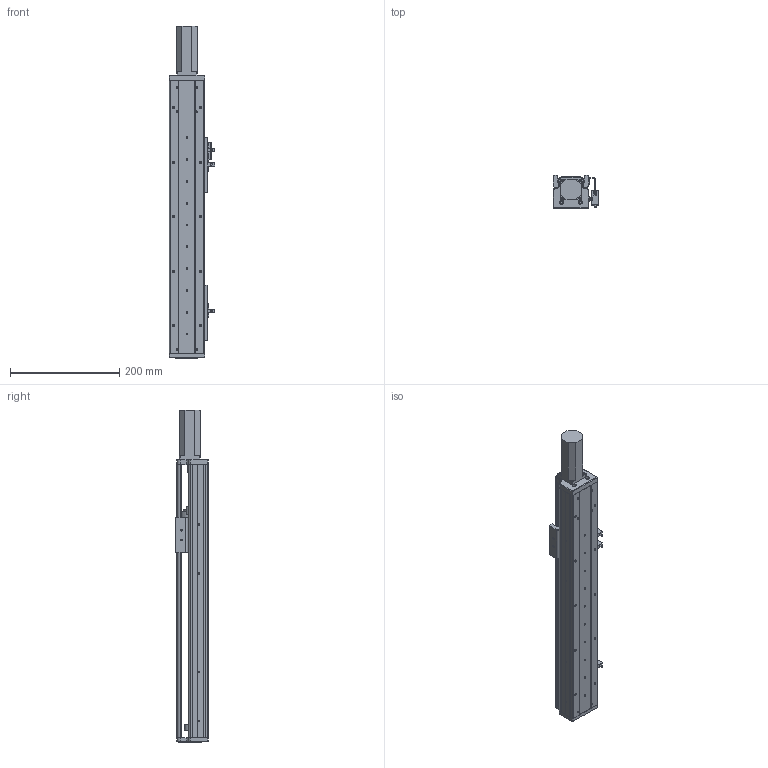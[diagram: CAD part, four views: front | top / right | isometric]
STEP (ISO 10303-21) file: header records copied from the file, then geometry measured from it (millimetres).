
FILE_DESCRIPTION (( 'STEP AP203' ), '1' );
FILE_NAME ('RY60-L1210-300-MK.SLDASM_300.step', '2021-02-20T01:55:40', ( '' ), ( '' ), 'SwSTEP 2.0', 'SolidWorks 2012', '' );
FILE_SCHEMA (( 'CONFIG_CONTROL_DESIGN' ));
Length unit declared in the file: millimetre
Products named in the file (13): SFN1210螺母(没线割）; RY60-L1210-300-MK.SLDASM_300; RY60綴裔啣; 滅袉蝶18-10; 滅袉蝶18-20; 侂狟100W; RY60前盖板100(PCD46-M4); RY80俋离覜茼え; 672嫖萇羲壽假蚾釱; 覜茼ん672; RY60-300倰第菁釱-MK; RY60-300倰第裔啣-MK; RY60臏賑輸
Assembly tree (17 placements, depth 2):
  RY60-L1210-300-MK.SLDASM_300
    RY60-300倰第菁釱-MK
    RY60臏賑輸
    RY60-300倰第裔啣-MK
    RY60前盖板100(PCD46-M4)
    672嫖萇羲壽假蚾釱  x2
    覜茼ん672  x3
    RY80俋离覜茼え
    侂狟100W
    滅袉蝶18-20  x2
    滅袉蝶18-10  x2
    RY60綴裔啣
    SFN1210螺母(没线割）
Bounding box: 83.7 x 61 x 609 mm (x, y, z)
Volume: 744083.6 mm3; surface area: 348226.4 mm2
Topology: 18 solids, 18 shells, 1102 faces, 3089 edges, 1998 vertices
Faces by surface type: plane 533, cylinder 499, cone 61, bspline 9
Entity records: 35405 total; most frequent: CARTESIAN_POINT 8260, ORIENTED_EDGE 5446, DIRECTION 5268, EDGE_CURVE 2723, AXIS2_PLACEMENT_3D 1824, VERTEX_POINT 1782, LINE 1620, VECTOR 1620
